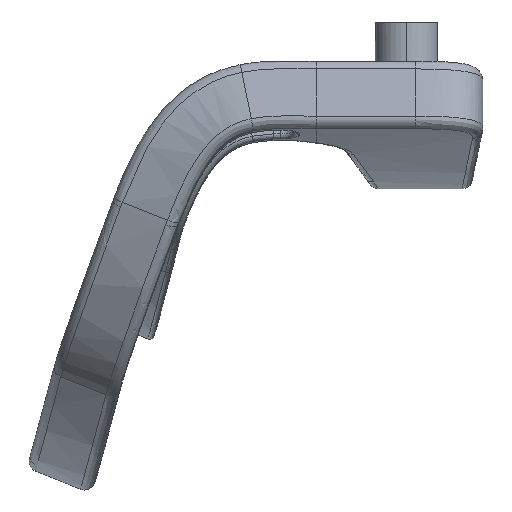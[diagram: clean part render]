
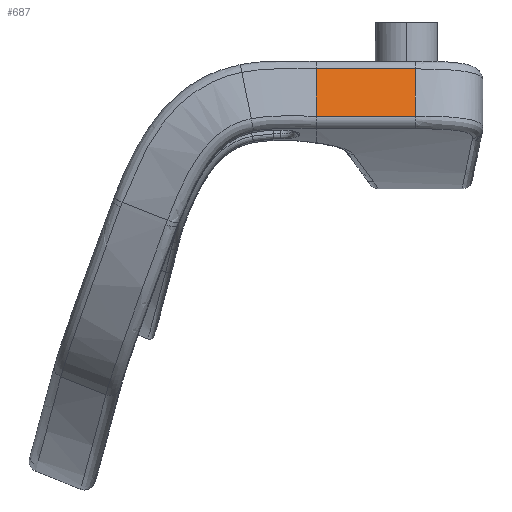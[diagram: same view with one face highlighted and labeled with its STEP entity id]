
A CAD part, left-side view. The second image highlights one B-rep face of the part: STEP entity #687.
In plain terms, the highlighted planar face has unit normal (-0.97, 0, 0.245).
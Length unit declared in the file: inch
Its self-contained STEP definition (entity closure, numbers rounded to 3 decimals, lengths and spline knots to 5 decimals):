
#687 = ADVANCED_FACE ( 'NONE', ( #5458 ), #14823, .T. ) ;
#2492 = CARTESIAN_POINT ( 'NONE',  ( -3.60661, 0.53608, 0.52307 ) ) ;
#2729 = LINE ( 'NONE', #5478, #19598 ) ;
#3440 = VERTEX_POINT ( 'NONE', #11609 ) ;
#3540 = EDGE_CURVE ( 'NONE', #3440, #21445, #2729, .T. ) ;
#5270 = DIRECTION ( 'NONE',  ( 0., -1., 0. ) ) ;
#5458 = FACE_OUTER_BOUND ( 'NONE', #6591, .T. ) ;
#5478 = CARTESIAN_POINT ( 'NONE',  ( -3.60661, 1.25, 0.52307 ) ) ;
#5623 = CARTESIAN_POINT ( 'NONE',  ( -3.57807, 0.53608, 0.6362 ) ) ;
#6591 = EDGE_LOOP ( 'NONE', ( #14993, #37813, #35833, #11202 ) ) ;
#7923 = VERTEX_POINT ( 'NONE', #26486 ) ;
#8533 = DIRECTION ( 'NONE',  ( 0., -1., 0. ) ) ;
#9695 = VERTEX_POINT ( 'NONE', #28612 ) ;
#10899 = CARTESIAN_POINT ( 'NONE',  ( -3.54954, 0.53608, 0.74932 ) ) ;
#11202 = ORIENTED_EDGE ( 'NONE', *, *, #31222, .F. ) ;
#11609 = CARTESIAN_POINT ( 'NONE',  ( -3.60661, 0.53608, 0.52307 ) ) ;
#11690 = DIRECTION ( 'NONE',  ( -0.97, 0., 0.245 ) ) ;
#11883 = CARTESIAN_POINT ( 'NONE',  ( -3.625, 0.89304, 0.45016 ) ) ;
#13227 = B_SPLINE_CURVE_WITH_KNOTS ( 'NONE', 3,
 ( #2492, #5623, #10899, #22832 ),
 .UNSPECIFIED., .F., .F.,
 ( 4, 4 ),
 ( 0.15038, 0.85039 ),
 .UNSPECIFIED. ) ;
#13864 = AXIS2_PLACEMENT_3D ( 'NONE', #11883, #11690, #5270 ) ;
#14823 = PLANE ( 'NONE',  #13864 ) ;
#14993 = ORIENTED_EDGE ( 'NONE', *, *, #23173, .F. ) ;
#16616 = CARTESIAN_POINT ( 'NONE',  ( -3.60661, 1.25, 0.52307 ) ) ;
#19598 = VECTOR ( 'NONE', #29545, 39.37008 ) ;
#20616 = B_SPLINE_CURVE_WITH_KNOTS ( 'NONE', 1,
 ( #16616, #25627 ),
 .UNSPECIFIED., .F., .F.,
 ( 2, 2 ),
 ( 0.15038, 0.85039 ),
 .UNSPECIFIED. ) ;
#21445 = VERTEX_POINT ( 'NONE', #26433 ) ;
#22832 = CARTESIAN_POINT ( 'NONE',  ( -3.521, 0.53608, 0.86244 ) ) ;
#23173 = EDGE_CURVE ( 'NONE', #21445, #9695, #20616, .T. ) ;
#25627 = CARTESIAN_POINT ( 'NONE',  ( -3.521, 1.25, 0.86244 ) ) ;
#26433 = CARTESIAN_POINT ( 'NONE',  ( -3.60661, 1.25, 0.52307 ) ) ;
#26486 = CARTESIAN_POINT ( 'NONE',  ( -3.521, 0.53608, 0.86244 ) ) ;
#26933 = CARTESIAN_POINT ( 'NONE',  ( -3.521, 0.89304, 0.86244 ) ) ;
#28612 = CARTESIAN_POINT ( 'NONE',  ( -3.521, 1.25, 0.86244 ) ) ;
#29545 = DIRECTION ( 'NONE',  ( 0., 1., 0. ) ) ;
#30577 = VECTOR ( 'NONE', #8533, 39.37008 ) ;
#31222 = EDGE_CURVE ( 'NONE', #9695, #7923, #36140, .T. ) ;
#32299 = EDGE_CURVE ( 'NONE', #3440, #7923, #13227, .T. ) ;
#35833 = ORIENTED_EDGE ( 'NONE', *, *, #32299, .T. ) ;
#36140 = LINE ( 'NONE', #26933, #30577 ) ;
#37813 = ORIENTED_EDGE ( 'NONE', *, *, #3540, .F. ) ;
